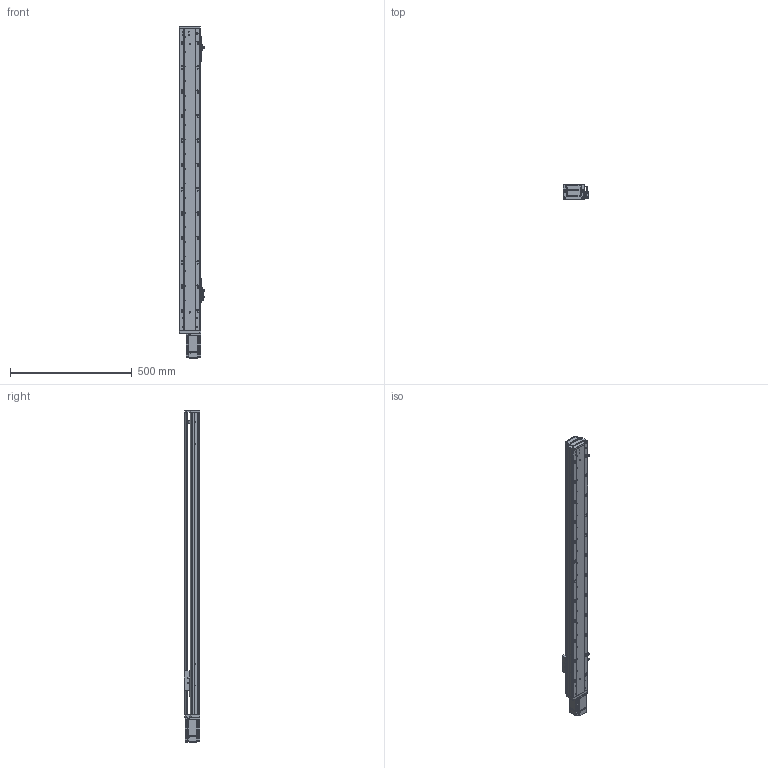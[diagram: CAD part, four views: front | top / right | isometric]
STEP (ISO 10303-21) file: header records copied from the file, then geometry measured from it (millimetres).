
FILE_DESCRIPTION (( 'STEP AP203' ), '1' );
FILE_NAME ('RY80-L1620-800-MK.SLDASM_1000.step', '2021-02-20T03:10:24', ( '' ), ( '' ), 'SwSTEP 2.0', 'SolidWorks 2012', '' );
FILE_SCHEMA (( 'CONFIG_CONTROL_DESIGN' ));
Length unit declared in the file: millimetre
Products named in the file (13): 滅袉蝶18-10; 672嫖萇羲壽假蚾釱; 覜茼ん672; RY80前盖板(200W电机); 1; 侂狟200W萇儂; RY80-800-MK倰第奻裔啣_1000; RY80-800-MK倰第菁釱_1000; RY80臏賑輸; RY80俋离覜茼え; RY80-L1620-800-MK.SLDASM_1000; 滅袉蝶18-24; RY80綴裔啣
Assembly tree (15 placements, depth 3):
  RY80-L1620-800-MK.SLDASM_1000
    RY80-800-MK倰第菁釱_1000
    RY80臏賑輸
    RY80-800-MK倰第奻裔啣_1000
    RY80前盖板(200W电机)
    侂狟200W萇儂
      1
    滅袉蝶18-10
    672嫖萇羲壽假蚾釱  x2
    覜茼ん672  x3
    RY80俋离覜茼え
    滅袉蝶18-24
    RY80綴裔啣
Bounding box: 103.7 x 65 x 1362 mm (x, y, z)
Volume: 2131438.1 mm3; surface area: 845171.8 mm2
Topology: 14 solids, 14 shells, 2183 faces, 6104 edges, 3985 vertices
Faces by surface type: plane 1140, cylinder 877, cone 114, bspline 52
Entity records: 71253 total; most frequent: CARTESIAN_POINT 19332, ORIENTED_EDGE 10956, DIRECTION 9914, EDGE_CURVE 5478, VERTEX_POINT 3601, AXIS2_PLACEMENT_3D 3367, LINE 3180, VECTOR 3180
